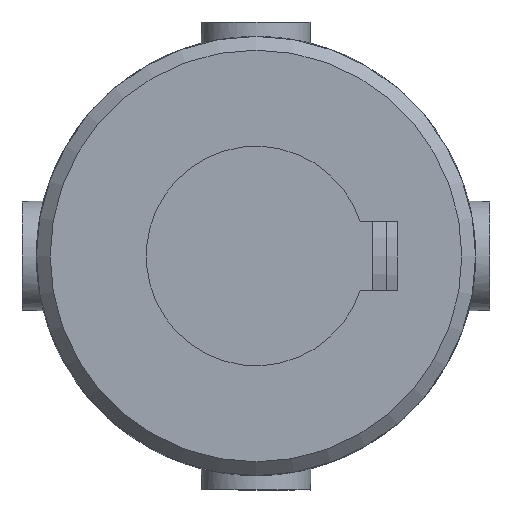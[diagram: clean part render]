
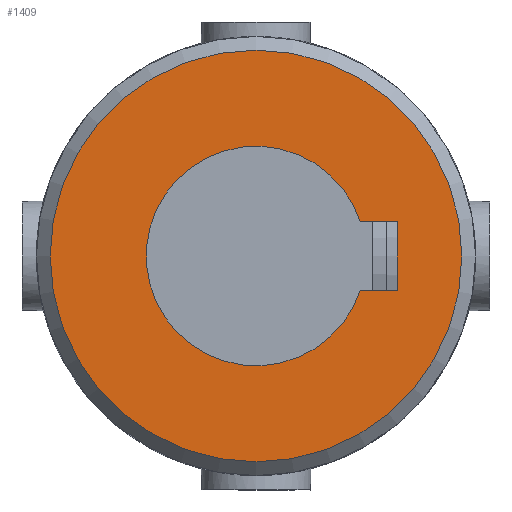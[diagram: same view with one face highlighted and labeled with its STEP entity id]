
A CAD part, left-side view. The second image highlights one B-rep face of the part: STEP entity #1409.
In plain terms, the highlighted planar face has unit normal (-1, 0, 0) as drawn and (0, -1, 0) by its records, which use the part's own axes.
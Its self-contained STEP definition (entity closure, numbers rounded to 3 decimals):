
#110=LINE('',#2711,#167);
#115=LINE('',#2728,#172);
#116=LINE('',#2737,#173);
#167=VECTOR('',#1831,2.701);
#172=VECTOR('',#1842,2.701);
#173=VECTOR('',#1845,5.);
#219=PLANE('',#1546);
#332=FACE_BOUND('',#513,.T.);
#400=FACE_OUTER_BOUND('',#512,.T.);
#512=EDGE_LOOP('',(#1228));
#513=EDGE_LOOP('',(#1229,#1230,#1231,#1232));
#577=CIRCLE('',#1534,8.);
#582=CIRCLE('',#1544,15.);
#692=VERTEX_POINT('',#2700);
#693=VERTEX_POINT('',#2702);
#695=VERTEX_POINT('',#2710);
#701=VERTEX_POINT('',#2726);
#703=VERTEX_POINT('',#2743);
#868=EDGE_CURVE('',#693,#692,#577,.T.);
#871=EDGE_CURVE('',#695,#693,#110,.T.);
#879=EDGE_CURVE('',#692,#701,#115,.T.);
#881=EDGE_CURVE('',#701,#695,#116,.T.);
#884=EDGE_CURVE('',#703,#703,#582,.T.);
#1228=ORIENTED_EDGE('',*,*,#884,.F.);
#1229=ORIENTED_EDGE('',*,*,#879,.T.);
#1230=ORIENTED_EDGE('',*,*,#881,.T.);
#1231=ORIENTED_EDGE('',*,*,#871,.T.);
#1232=ORIENTED_EDGE('',*,*,#868,.T.);
#1409=ADVANCED_FACE('',(#400,#332),#219,.F.);
#1534=AXIS2_PLACEMENT_3D('',#2703,#1826,#1827);
#1544=AXIS2_PLACEMENT_3D('',#2744,#1854,#1855);
#1546=AXIS2_PLACEMENT_3D('',#2920,#1862,#1863);
#1826=DIRECTION('center_axis',(0.,1.,0.));
#1827=DIRECTION('ref_axis',(-0.313,0.,0.95));
#1831=DIRECTION('',(0.,0.,1.));
#1842=DIRECTION('',(0.,0.,-1.));
#1845=DIRECTION('',(-1.,0.,0.));
#1854=DIRECTION('center_axis',(0.,1.,0.));
#1855=DIRECTION('ref_axis',(1.,0.,0.));
#1862=DIRECTION('center_axis',(0.,1.,0.));
#1863=DIRECTION('ref_axis',(0.,0.,1.));
#2700=CARTESIAN_POINT('',(2.5,-42.,-7.599));
#2702=CARTESIAN_POINT('',(-2.5,-42.,-7.599));
#2703=CARTESIAN_POINT('Origin',(0.,-42.,0.));
#2710=CARTESIAN_POINT('',(-2.5,-42.,-10.3));
#2711=CARTESIAN_POINT('',(-2.5,-42.,-5.15));
#2726=CARTESIAN_POINT('',(2.5,-42.,-10.3));
#2728=CARTESIAN_POINT('',(2.5,-42.,-3.8));
#2737=CARTESIAN_POINT('',(1.25,-42.,-10.3));
#2743=CARTESIAN_POINT('',(-15.,-42.,0.));
#2744=CARTESIAN_POINT('Origin',(0.,-42.,0.));
#2920=CARTESIAN_POINT('Origin',(0.,-42.,0.));
